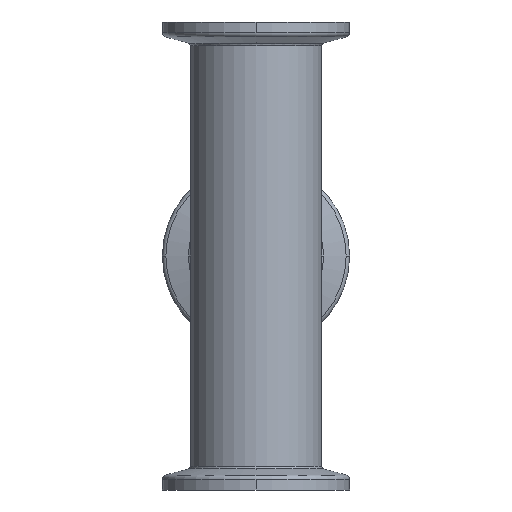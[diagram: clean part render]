
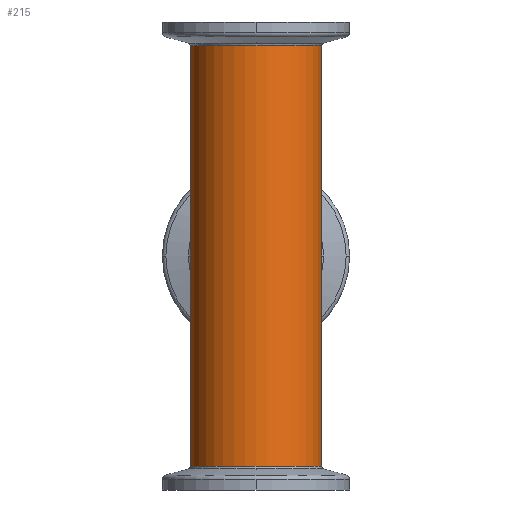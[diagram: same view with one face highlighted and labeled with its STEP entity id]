
A CAD part, front view. The second image highlights one B-rep face of the part: STEP entity #215.
In plain terms, the highlighted cylindrical face has radius 14 mm (diameter 28 mm), a partial arc.
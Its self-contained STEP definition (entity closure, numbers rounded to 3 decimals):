
#130=CARTESIAN_POINT('',(-14.,0.,-0.932));
#131=VERTEX_POINT('',#130);
#132=CARTESIAN_POINT('',(-14.,0.0,44.0));
#133=VERTEX_POINT('',#132);
#134=CARTESIAN_POINT('',(-14.,0.,-0.932));
#135=DIRECTION('',(0.0,0.0,1.0));
#136=VECTOR('',#135,44.932);
#137=LINE('',#134,#136);
#138=EDGE_CURVE('',#131,#133,#137,.T.);
#140=CARTESIAN_POINT('',(14.,0.0,44.0));
#141=VERTEX_POINT('',#140);
#149=CARTESIAN_POINT('',(14.,0.,-0.932));
#150=VERTEX_POINT('',#149);
#151=CARTESIAN_POINT('',(14.,0.0,44.0));
#152=DIRECTION('',(0.0,0.0,-1.0));
#153=VECTOR('',#152,44.932);
#154=LINE('',#151,#153);
#155=EDGE_CURVE('',#141,#150,#154,.T.);
#167=CARTESIAN_POINT('',(0.0,0.0,0.0));
#168=DIRECTION('',(0.0,0.0,1.0));
#169=DIRECTION('',(-1.0,0.0,0.0));
#170=AXIS2_PLACEMENT_3D('',#167,#168,#169);
#171=CYLINDRICAL_SURFACE('',#170,14.);
#172=CARTESIAN_POINT('',(-14.,0.,88.932));
#173=VERTEX_POINT('',#172);
#174=CARTESIAN_POINT('',(-14.,0.0,44.0));
#175=DIRECTION('',(0.0,0.0,1.0));
#176=VECTOR('',#175,44.932);
#177=LINE('',#174,#176);
#178=EDGE_CURVE('',#133,#173,#177,.T.);
#179=ORIENTED_EDGE('',*,*,#178,.F.);
#180=ORIENTED_EDGE('',*,*,#138,.F.);
#181=CARTESIAN_POINT('',(0.0,-14.,-0.932));
#182=VERTEX_POINT('',#181);
#183=CARTESIAN_POINT('',(0.0,0.0,-0.932));
#184=DIRECTION('',(0.0,0.0,-1.0));
#185=DIRECTION('',(0.0,1.0,0.0));
#186=AXIS2_PLACEMENT_3D('',#183,#184,#185);
#187=CIRCLE('',#186,14.);
#188=EDGE_CURVE('',#182,#131,#187,.T.);
#189=ORIENTED_EDGE('',*,*,#188,.F.);
#190=CARTESIAN_POINT('',(0.0,0.0,-0.932));
#191=DIRECTION('',(0.0,0.0,-1.0));
#192=DIRECTION('',(0.0,1.0,0.0));
#193=AXIS2_PLACEMENT_3D('',#190,#191,#192);
#194=CIRCLE('',#193,14.);
#195=EDGE_CURVE('',#150,#182,#194,.T.);
#196=ORIENTED_EDGE('',*,*,#195,.F.);
#197=ORIENTED_EDGE('',*,*,#155,.F.);
#198=CARTESIAN_POINT('',(14.,0.,88.932));
#199=VERTEX_POINT('',#198);
#200=CARTESIAN_POINT('',(14.,0.,88.932));
#201=DIRECTION('',(0.0,0.0,-1.0));
#202=VECTOR('',#201,44.932);
#203=LINE('',#200,#202);
#204=EDGE_CURVE('',#199,#141,#203,.T.);
#205=ORIENTED_EDGE('',*,*,#204,.F.);
#206=CARTESIAN_POINT('',(0.0,0.0,88.932));
#207=DIRECTION('',(0.0,0.0,1.0));
#208=DIRECTION('',(0.0,-1.0,0.0));
#209=AXIS2_PLACEMENT_3D('',#206,#207,#208);
#210=CIRCLE('',#209,14.);
#211=EDGE_CURVE('',#173,#199,#210,.T.);
#212=ORIENTED_EDGE('',*,*,#211,.F.);
#213=EDGE_LOOP('',(#179,#180,#189,#196,#197,#205,#212));
#214=FACE_OUTER_BOUND('',#213,.T.);
#215=ADVANCED_FACE('',(#214),#171,.T.);
